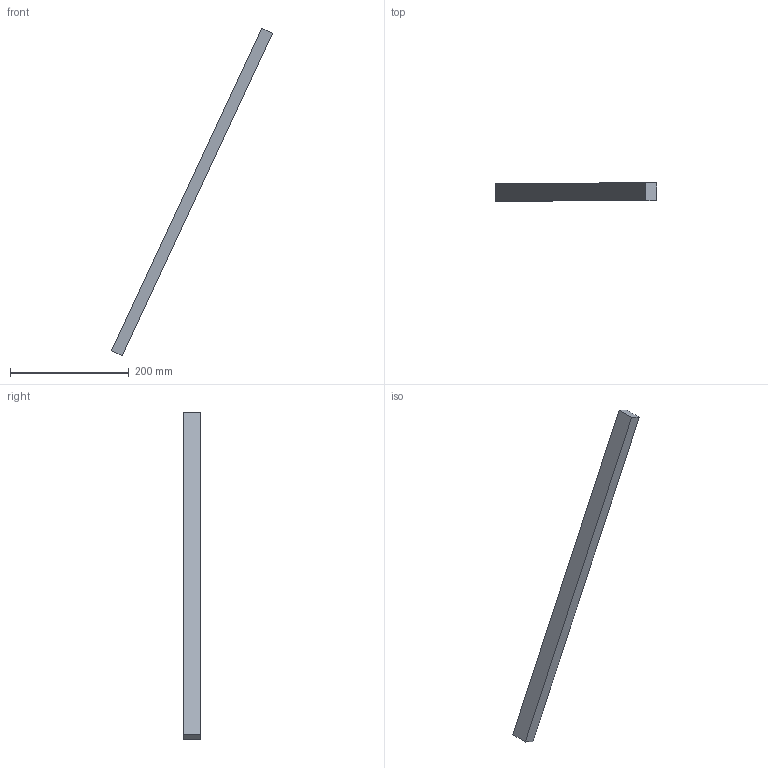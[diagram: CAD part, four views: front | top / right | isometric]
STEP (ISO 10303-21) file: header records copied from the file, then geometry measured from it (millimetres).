
FILE_DESCRIPTION(('FreeCAD Model'),'2;1');
FILE_NAME('Open CASCADE Shape Model','2026-09-10T19:59:48',('FreeCAD'),( 'FreeCAD'),'Open CASCADE STEP processor 7.8','FreeCAD','Unknown');
FILE_SCHEMA(('AUTOMOTIVE_DESIGN { 1 0 10303 214 1 1 1 1 }'));
Length unit declared in the file: millimetre
Products named in the file (1): Open CASCADE STEP translator 7.8 1
Bounding box: 271.7 x 30 x 552.24 mm (x, y, z)
Volume: 360000 mm3; surface area: 61200 mm2
Topology: 1 solids, 1 shells, 6 faces, 12 edges, 8 vertices
Faces by surface type: plane 6
Entity records: 166 total; most frequent: CARTESIAN_POINT 27, DIRECTION 26, ORIENTED_EDGE 24, EDGE_CURVE 12, LINE 12, VECTOR 12, VERTEX_POINT 8, AXIS2_PLACEMENT_3D 7
